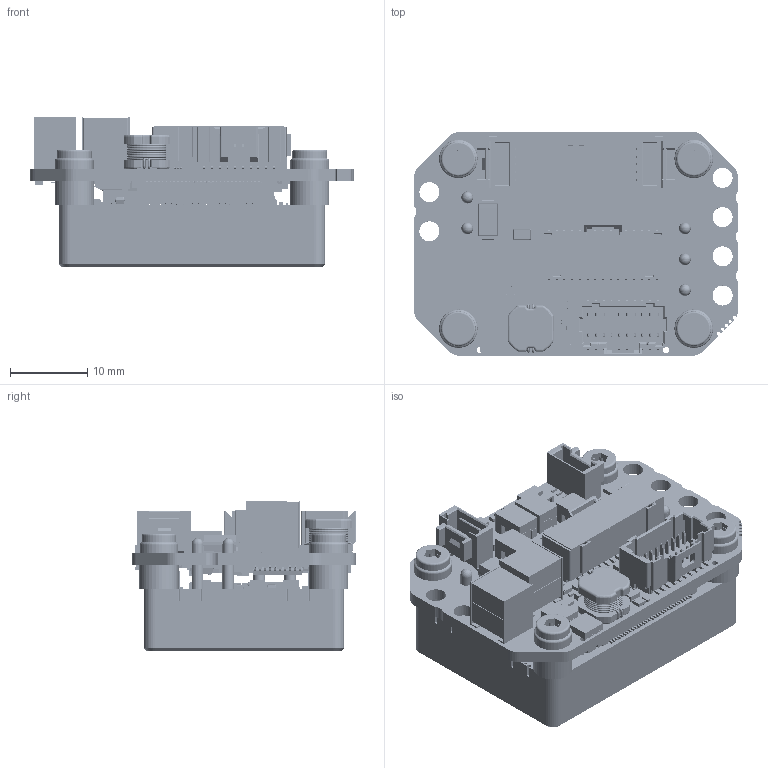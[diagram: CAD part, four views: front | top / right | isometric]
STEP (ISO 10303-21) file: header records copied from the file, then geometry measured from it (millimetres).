
FILE_DESCRIPTION(('Open CASCADE Model'),'2;1');
FILE_NAME('Open CASCADE Shape Model','2020-11-09T15:32:31',('Author'),( 'Open CASCADE'),'Open CASCADE STEP processor 6.8','Open CASCADE 6.8' ,'Unknown');
FILE_SCHEMA(('AUTOMOTIVE_DESIGN { 1 0 10303 214 1 1 1 1 }'));
Length unit declared in the file: millimetre
Products named in the file (646): PCB; Board; Open CASCADE STEP translator 6.8 7.1.1; Open CASCADE STEP translator 6.8 7.1.1.1; P12; 501190-3017_RGB13431551; R49; R_0402; R62; Q9; User_Library-SOT-723; Q8; Q7; R61; R60; R59; R58; Q6; POWERPAK_1212-8; 7675614352; Cylinder; D25; User_Library-SOD-923; D17; D16; C60; 7675614112; Extruded; 7675615552; C59; 7675621792; C58; C57; 5940018560; 5940014000; C56; R56; R55; C50; L12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
Assembly tree (1286 placements, depth 7):
  PCB
    Board
      Open CASCADE STEP translator 6.8 7.1.1
        Open CASCADE STEP translator 6.8 7.1.1.1
    P12
      501190-3017_RGB13431551
    R49
      R_0402
    R62
      R_0402
    Q9
      User_Library-SOT-723
    Q8
      User_Library-SOT-723
    Q7
      User_Library-SOT-723
    R61
      R_0402
    R60
      R_0402
    R59
      R_0402
    R58
      R_0402
    Q6
      POWERPAK_1212-8
      7675614352
        Cylinder
    D25
      User_Library-SOD-923
    D17
      User_Library-SOD-923
    D16
      User_Library-SOD-923
    C60
      7675614112  x2
        Extruded
      7675615552
        Extruded
    C59
      7675621792  x2
        Extruded
      7675615552
        Extruded
    C58
      7675621792  x2
        Extruded
      7675615552
        Extruded
    C57
      5940018560  x2
        Extruded
      5940014000
        Extruded
    C56
      5940018560  x2
        Extruded
      5940014000
        Extruded
    R56
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Bounding box: 42 x 42.57 x 19.35 mm (x, y, z)
Volume: 7888.6 mm3; surface area: 18648.7 mm2
Topology: 1054 solids, 1083 shells, 35468 faces, 92989 edges, 60162 vertices
Faces by surface type: plane 26619, cylinder 6495, bspline 1660, sphere 476, torus 134, cone 64, revolution 20
Full cylindrical faces by diameter (mm): 0.047 x1, 0.131 x1, 0.151 x1, 0.17 x1, 0.206 x5, 0.263 x2, 0.3 x1, 0.312 x2, 0.338 x2, 0.4 x23, 0.6 x8, 0.8 x2, 1.6 x5, 1.7 x5, 2.6 x6, 2.7 x8, 3.5 x4, 3.7 x4, 5.1 x4
Entity records: 621638 total; most frequent: CARTESIAN_POINT 117075, ORIENTED_EDGE 98261, DIRECTION 90996, EDGE_CURVE 49162, LINE 43474, VECTOR 43474, VERTEX_POINT 32278, AXIS2_PLACEMENT_3D 23757
